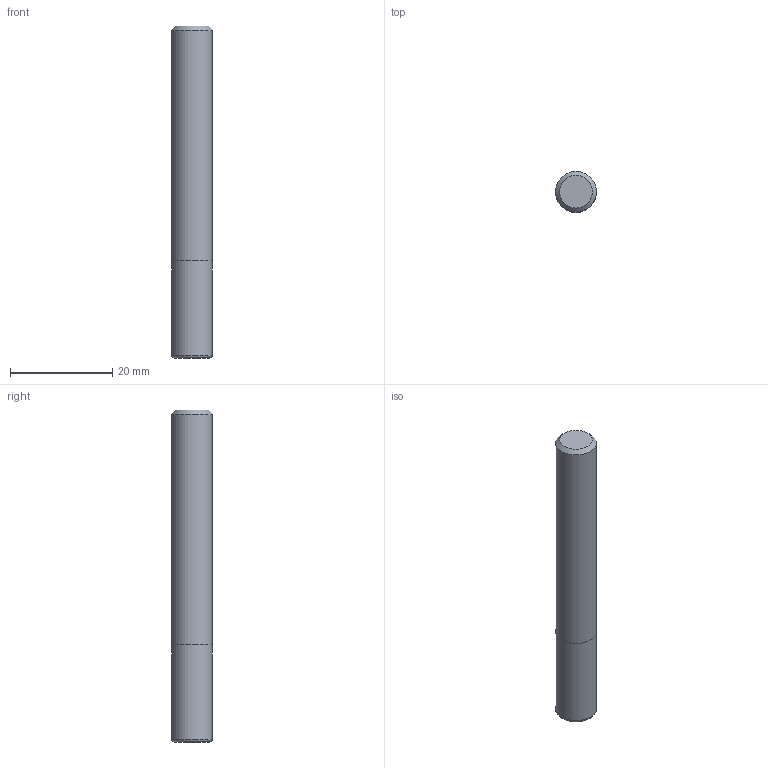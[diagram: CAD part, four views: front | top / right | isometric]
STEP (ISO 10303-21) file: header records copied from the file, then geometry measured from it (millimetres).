
FILE_DESCRIPTION((''),'2;1');
FILE_NAME('C:\Users\nsx150\AppData\Local\Temp\Mastercam 2021\0KY4AY0TVG\TEMP.step','2021-10-21T14:41:58',(''),(''),'STEP Write','Mastercam 2021 ... CNC Software, Inc.','');
FILE_SCHEMA(('AUTOMOTIVE_DESIGN'));
Length unit declared in the file: millimetre
Products named in the file (1): None
Bounding box: 8 x 8 x 65 mm (x, y, z)
Volume: 3258.4 mm3; surface area: 1816.6 mm2
Topology: 2 solids, 2 shells, 8 faces, 10 edges, 6 vertices
Faces by surface type: plane 4, cylinder 2, torus 1, cone 1
Full cylindrical faces by diameter (mm): 8 x2
Entity records: 190 total; most frequent: DIRECTION 32, CARTESIAN_POINT 22, AXIS2_PLACEMENT_3D 16, ORIENTED_EDGE 12, EDGE_LOOP 12, STYLED_ITEM 11, ADVANCED_FACE 8, FACE_BOUND 7
